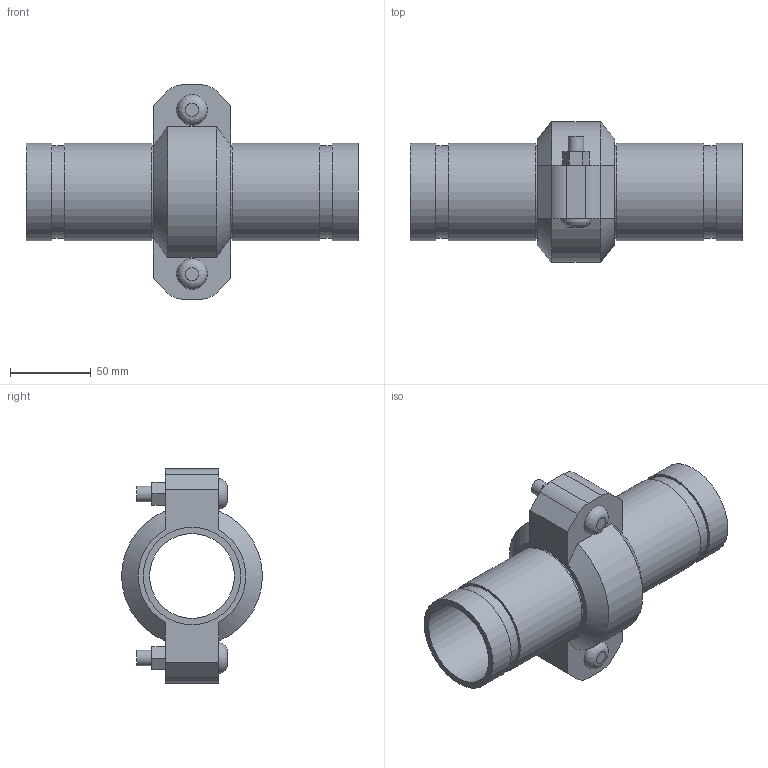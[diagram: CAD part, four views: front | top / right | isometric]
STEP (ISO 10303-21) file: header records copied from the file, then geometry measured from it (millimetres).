
FILE_DESCRIPTION(/* description */ ('VIC SS EXPANSION JOINT 1 COUPLING NEUTRAL STYLE 155P (OGS) (POTABLE WATER) ','CAx-IF Rec.Pracs.---Representation and Presentation of Product Manufacturing Information (PMI)---4.0---2014-10-13'),/* implementation_level */ '2;1');
FILE_NAME(/* name */ 'C:\Users\kkamble\AppData\Roaming\Autodesk\ApplicationPlugins\Victaulic.Temp\A585\Victaulic_SS_Expansion Joint_Neutral_1 Coupling_Style 155P (OGS)-Potable Water_1 Coup_Neut_2 (50).stp',/* time_stamp */ '2021-07-16T16:25:41+06:00',/* author */ ('kkamble'),/* organization */ ('Victaulic'),/* preprocessor_version */ 'ST-DEVELOPER v17.2',/* originating_system */ 'Autodesk Inventor 2019',/* authorisation */ '');
FILE_SCHEMA (('AP242_MANAGED_MODEL_BASED_3D_ENGINEERING_MIM_LF { 1 0 10303 442 1 1 4 }'));
Length unit declared in the file: inch
Products named in the file (3): 155P-02.0; Nipple-02.0; 075-02.0
Assembly tree (3 placements, depth 2):
  155P-02.0
    Nipple-02.0  x2
    075-02.0
Bounding box: 205.49 x 87.12 x 132.59 mm (x, y, z)
Volume: 332408.6 mm3; surface area: 116657.8 mm2
Topology: 3 solids, 5 shells, 81 faces, 193 edges, 138 vertices
Faces by surface type: plane 48, cylinder 27, cone 4, bspline 2
Full cylindrical faces by diameter (mm): 9.525 x4, 11.43 x2, 52.502 x2, 53.975 x1, 57.15 x4, 60.325 x8
Entity records: 2292 total; most frequent: CARTESIAN_POINT 420, DIRECTION 369, ORIENTED_EDGE 326, EDGE_CURVE 163, AXIS2_PLACEMENT_3D 141, VERTEX_POINT 114, EDGE_LOOP 89, LINE 87
